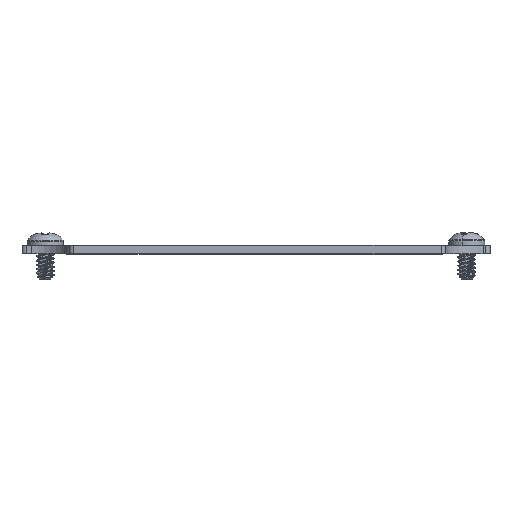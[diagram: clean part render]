
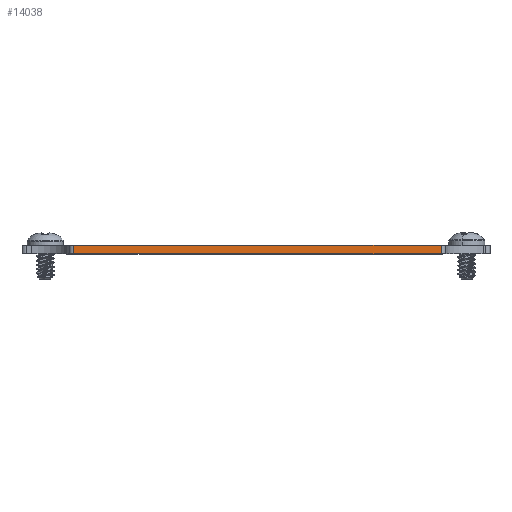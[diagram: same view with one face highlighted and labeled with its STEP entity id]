
A CAD part, top view. The second image highlights one B-rep face of the part: STEP entity #14038.
In plain terms, the highlighted planar face has unit normal (0, 0, 1).
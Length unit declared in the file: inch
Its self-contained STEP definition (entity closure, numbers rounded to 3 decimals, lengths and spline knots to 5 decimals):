
#14 = AXIS2_PLACEMENT_3D ( 'NONE', #14205, #4781, #4871 ) ;
#553 = DIRECTION ( 'NONE',  ( 0., -1., 0. ) ) ;
#899 = ORIENTED_EDGE ( 'NONE', *, *, #5048, .T. ) ;
#1058 = ORIENTED_EDGE ( 'NONE', *, *, #15287, .F. ) ;
#1296 = CARTESIAN_POINT ( 'NONE',  ( 1.38435, 0., 1.08071 ) ) ;
#2269 = CARTESIAN_POINT ( 'NONE',  ( -1.36467, 0., 1.08071 ) ) ;
#3235 = EDGE_CURVE ( 'NONE', #12101, #16081, #11397, .T. ) ;
#3527 = CARTESIAN_POINT ( 'NONE',  ( -1.36467, 0.06, 1.08071 ) ) ;
#4691 = CARTESIAN_POINT ( 'NONE',  ( -1.36467, 0.06, 1.08071 ) ) ;
#4781 = DIRECTION ( 'NONE',  ( 0., 0., -1. ) ) ;
#4871 = DIRECTION ( 'NONE',  ( -1., 0., 0. ) ) ;
#5048 = EDGE_CURVE ( 'NONE', #5497, #16081, #17098, .T. ) ;
#5414 = ORIENTED_EDGE ( 'NONE', *, *, #3235, .F. ) ;
#5497 = VERTEX_POINT ( 'NONE', #8916 ) ;
#5630 = CARTESIAN_POINT ( 'NONE',  ( -1.36467, 0.06, 1.08071 ) ) ;
#5787 = EDGE_CURVE ( 'NONE', #14929, #5497, #8807, .T. ) ;
#6106 = FACE_OUTER_BOUND ( 'NONE', #10288, .T. ) ;
#6197 = PLANE ( 'NONE',  #14 ) ;
#6491 = CARTESIAN_POINT ( 'NONE',  ( 1.38435, 0.06, 1.08071 ) ) ;
#8091 = LINE ( 'NONE', #5630, #13144 ) ;
#8578 = VECTOR ( 'NONE', #10554, 39.37008 ) ;
#8807 = LINE ( 'NONE', #3527, #15055 ) ;
#8898 = DIRECTION ( 'NONE',  ( 0., -1., 0. ) ) ;
#8916 = CARTESIAN_POINT ( 'NONE',  ( -1.36467, 0., 1.08071 ) ) ;
#10288 = EDGE_LOOP ( 'NONE', ( #899, #5414, #1058, #10415 ) ) ;
#10415 = ORIENTED_EDGE ( 'NONE', *, *, #5787, .T. ) ;
#10554 = DIRECTION ( 'NONE',  ( 1., 0., 0. ) ) ;
#10979 = DIRECTION ( 'NONE',  ( 1., 0., 0. ) ) ;
#11397 = LINE ( 'NONE', #15386, #12798 ) ;
#12101 = VERTEX_POINT ( 'NONE', #6491 ) ;
#12798 = VECTOR ( 'NONE', #553, 39.37008 ) ;
#13144 = VECTOR ( 'NONE', #10979, 39.37008 ) ;
#14038 = ADVANCED_FACE ( 'NONE', ( #6106 ), #6197, .F. ) ;
#14205 = CARTESIAN_POINT ( 'NONE',  ( -1.36467, 0.06, 1.08071 ) ) ;
#14929 = VERTEX_POINT ( 'NONE', #4691 ) ;
#15055 = VECTOR ( 'NONE', #8898, 39.37008 ) ;
#15287 = EDGE_CURVE ( 'NONE', #14929, #12101, #8091, .T. ) ;
#15386 = CARTESIAN_POINT ( 'NONE',  ( 1.38435, 0.06, 1.08071 ) ) ;
#16081 = VERTEX_POINT ( 'NONE', #1296 ) ;
#17098 = LINE ( 'NONE', #2269, #8578 ) ;
